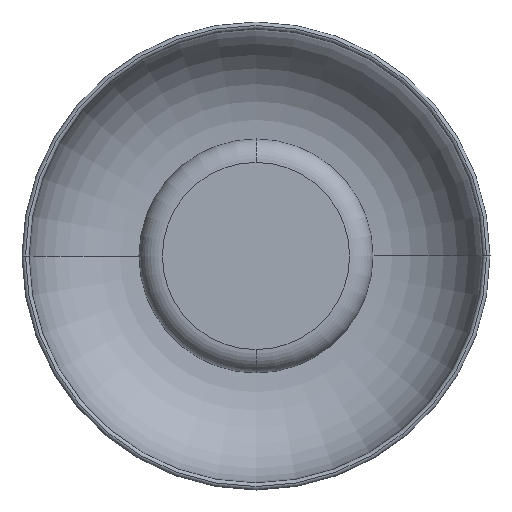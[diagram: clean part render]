
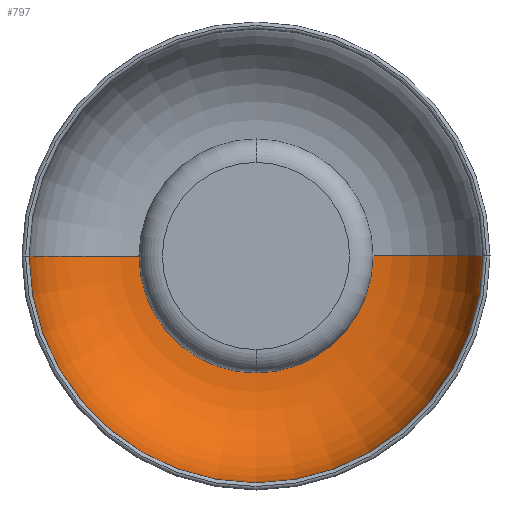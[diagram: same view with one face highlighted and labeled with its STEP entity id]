
A CAD part, front view. The second image highlights one B-rep face of the part: STEP entity #797.
In plain terms, the highlighted toroidal (fillet/blend) face has major radius 50 mm and minor radius 47 mm.
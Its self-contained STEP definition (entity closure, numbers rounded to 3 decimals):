
#9 = CARTESIAN_POINT ( 'NONE',  ( 50., 27., 0. ) ) ;
#21 = VERTEX_POINT ( 'NONE', #548 ) ;
#75 = CIRCLE ( 'NONE', #791, 97. ) ;
#106 = TOROIDAL_SURFACE ( 'NONE', #446, 50., 47. ) ;
#122 = DIRECTION ( 'NONE',  ( -1., 0., 0. ) ) ;
#131 = DIRECTION ( 'NONE',  ( 0., 1., 0. ) ) ;
#148 = EDGE_CURVE ( 'NONE', #21, #884, #75, .T. ) ;
#149 = CARTESIAN_POINT ( 'NONE',  ( 0., -20., 0. ) ) ;
#154 = VERTEX_POINT ( 'NONE', #9 ) ;
#179 = CARTESIAN_POINT ( 'NONE',  ( -97., -20., 0. ) ) ;
#211 = DIRECTION ( 'NONE',  ( 1., 0., 0. ) ) ;
#234 = AXIS2_PLACEMENT_3D ( 'NONE', #481, #780, #211 ) ;
#265 = ORIENTED_EDGE ( 'NONE', *, *, #471, .T. ) ;
#292 = DIRECTION ( 'NONE',  ( -1., 0., 0. ) ) ;
#316 = DIRECTION ( 'NONE',  ( 0., 1., 0. ) ) ;
#345 = CARTESIAN_POINT ( 'NONE',  ( 0., 27., 0. ) ) ;
#386 = CARTESIAN_POINT ( 'NONE',  ( -50., -20., 0. ) ) ;
#390 = DIRECTION ( 'NONE',  ( 0., 0., -1. ) ) ;
#402 = EDGE_CURVE ( 'NONE', #21, #154, #591, .T. ) ;
#436 = DIRECTION ( 'NONE',  ( -1., 0., 0. ) ) ;
#446 = AXIS2_PLACEMENT_3D ( 'NONE', #787, #131, #292 ) ;
#471 = EDGE_CURVE ( 'NONE', #154, #890, #901, .T. ) ;
#481 = CARTESIAN_POINT ( 'NONE',  ( 50., -20., 0. ) ) ;
#496 = EDGE_LOOP ( 'NONE', ( #798, #775, #265, #789 ) ) ;
#497 = FACE_OUTER_BOUND ( 'NONE', #496, .T. ) ;
#548 = CARTESIAN_POINT ( 'NONE',  ( 97., -20., 0. ) ) ;
#591 = CIRCLE ( 'NONE', #234, 47. ) ;
#643 = AXIS2_PLACEMENT_3D ( 'NONE', #345, #763, #122 ) ;
#668 = DIRECTION ( 'NONE',  ( -1., 0., 0. ) ) ;
#763 = DIRECTION ( 'NONE',  ( 0., 1., 0. ) ) ;
#775 = ORIENTED_EDGE ( 'NONE', *, *, #402, .T. ) ;
#780 = DIRECTION ( 'NONE',  ( 0., 0., 1. ) ) ;
#781 = AXIS2_PLACEMENT_3D ( 'NONE', #386, #390, #668 ) ;
#787 = CARTESIAN_POINT ( 'NONE',  ( 0., -20., 0. ) ) ;
#789 = ORIENTED_EDGE ( 'NONE', *, *, #874, .F. ) ;
#791 = AXIS2_PLACEMENT_3D ( 'NONE', #149, #316, #436 ) ;
#797 = ADVANCED_FACE ( 'NONE', ( #497 ), #106, .F. ) ;
#798 = ORIENTED_EDGE ( 'NONE', *, *, #148, .F. ) ;
#874 = EDGE_CURVE ( 'NONE', #884, #890, #919, .T. ) ;
#878 = CARTESIAN_POINT ( 'NONE',  ( -50., 27., 0. ) ) ;
#884 = VERTEX_POINT ( 'NONE', #179 ) ;
#890 = VERTEX_POINT ( 'NONE', #878 ) ;
#901 = CIRCLE ( 'NONE', #643, 50. ) ;
#919 = CIRCLE ( 'NONE', #781, 47. ) ;
